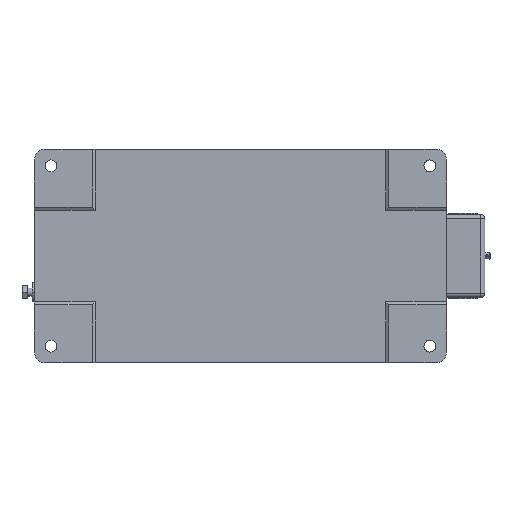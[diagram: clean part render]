
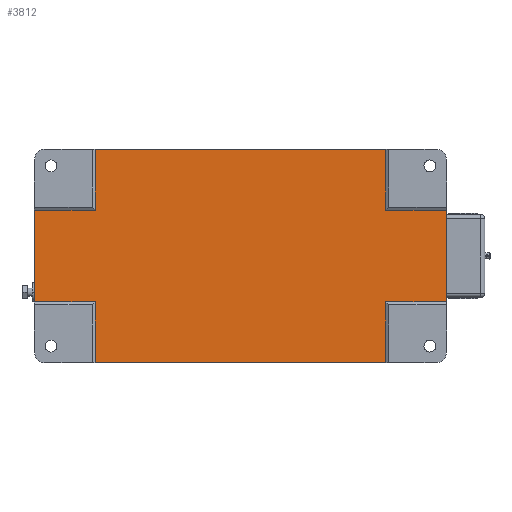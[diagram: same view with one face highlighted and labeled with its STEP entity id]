
A CAD part, front view. The second image highlights one B-rep face of the part: STEP entity #3812.
In plain terms, the highlighted planar face has unit normal (0, -1, 0).
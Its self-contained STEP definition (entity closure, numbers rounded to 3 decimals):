
#265 = CARTESIAN_POINT ( 'NONE',  ( 150., 2., 44.144 ) ) ;
#418 = VECTOR ( 'NONE', #7717, 1000. ) ;
#511 = DIRECTION ( 'NONE',  ( -1., 0., 0. ) ) ;
#538 = LINE ( 'NONE', #7071, #13415 ) ;
#794 = VECTOR ( 'NONE', #5416, 1000. ) ;
#935 = VERTEX_POINT ( 'NONE', #2004 ) ;
#1077 = CARTESIAN_POINT ( 'NONE',  ( -248., 2., 44.144 ) ) ;
#1304 = EDGE_CURVE ( 'NONE', #7363, #2558, #12093, .T. ) ;
#1396 = ORIENTED_EDGE ( 'NONE', *, *, #13284, .F. ) ;
#1512 = ORIENTED_EDGE ( 'NONE', *, *, #1753, .T. ) ;
#1616 = CARTESIAN_POINT ( 'NONE',  ( -189.144, 2., -103. ) ) ;
#1622 = CARTESIAN_POINT ( 'NONE',  ( -248., 2., -44.144 ) ) ;
#1637 = VECTOR ( 'NONE', #6834, 1000. ) ;
#1672 = ORIENTED_EDGE ( 'NONE', *, *, #11201, .F. ) ;
#1753 = EDGE_CURVE ( 'NONE', #4598, #8154, #3810, .T. ) ;
#1765 = LINE ( 'NONE', #2901, #6743 ) ;
#1869 = VECTOR ( 'NONE', #13486, 1000. ) ;
#1978 = EDGE_CURVE ( 'NONE', #10796, #11551, #8562, .T. ) ;
#1993 = CARTESIAN_POINT ( 'NONE',  ( 91.144, 2., 103. ) ) ;
#2004 = CARTESIAN_POINT ( 'NONE',  ( 150., 2., 44.144 ) ) ;
#2281 = CARTESIAN_POINT ( 'NONE',  ( 91.144, 2., -103. ) ) ;
#2365 = EDGE_CURVE ( 'NONE', #8154, #935, #12045, .T. ) ;
#2481 = VERTEX_POINT ( 'NONE', #12335 ) ;
#2492 = AXIS2_PLACEMENT_3D ( 'NONE', #13497, #3818, #5193 ) ;
#2558 = VERTEX_POINT ( 'NONE', #1993 ) ;
#2574 = ORIENTED_EDGE ( 'NONE', *, *, #4989, .T. ) ;
#2624 = PLANE ( 'NONE',  #2492 ) ;
#2687 = CARTESIAN_POINT ( 'NONE',  ( 91.144, 2., -103. ) ) ;
#2901 = CARTESIAN_POINT ( 'NONE',  ( 91.144, 2., 103. ) ) ;
#3379 = ORIENTED_EDGE ( 'NONE', *, *, #4449, .F. ) ;
#3411 = LINE ( 'NONE', #3625, #418 ) ;
#3625 = CARTESIAN_POINT ( 'NONE',  ( -189.144, 2., -103. ) ) ;
#3687 = LINE ( 'NONE', #6912, #8026 ) ;
#3810 = LINE ( 'NONE', #1622, #1869 ) ;
#3812 = ADVANCED_FACE ( 'NONE', ( #5918 ), #2624, .F. ) ;
#3818 = DIRECTION ( 'NONE',  ( 0., 1., 0. ) ) ;
#4449 = EDGE_CURVE ( 'NONE', #10304, #2481, #3411, .T. ) ;
#4467 = ORIENTED_EDGE ( 'NONE', *, *, #1978, .F. ) ;
#4598 = VERTEX_POINT ( 'NONE', #5444 ) ;
#4642 = LINE ( 'NONE', #8914, #7064 ) ;
#4886 = VERTEX_POINT ( 'NONE', #7814 ) ;
#4989 = EDGE_CURVE ( 'NONE', #6634, #4598, #12905, .T. ) ;
#5193 = DIRECTION ( 'NONE',  ( -1., 0., 0. ) ) ;
#5194 = ORIENTED_EDGE ( 'NONE', *, *, #11914, .T. ) ;
#5416 = DIRECTION ( 'NONE',  ( 0., 0., 1. ) ) ;
#5444 = CARTESIAN_POINT ( 'NONE',  ( 91.144, 2., -44.144 ) ) ;
#5611 = DIRECTION ( 'NONE',  ( 1., 0., 0. ) ) ;
#5905 = ORIENTED_EDGE ( 'NONE', *, *, #2365, .T. ) ;
#5918 = FACE_OUTER_BOUND ( 'NONE', #12844, .T. ) ;
#5983 = LINE ( 'NONE', #2687, #1637 ) ;
#6452 = CARTESIAN_POINT ( 'NONE',  ( 91.144, 2., -103. ) ) ;
#6634 = VERTEX_POINT ( 'NONE', #13439 ) ;
#6743 = VECTOR ( 'NONE', #511, 1000. ) ;
#6834 = DIRECTION ( 'NONE',  ( -1., 0., 0. ) ) ;
#6912 = CARTESIAN_POINT ( 'NONE',  ( -189.144, 2., -103. ) ) ;
#6932 = DIRECTION ( 'NONE',  ( 1., 0., 0. ) ) ;
#6953 = CARTESIAN_POINT ( 'NONE',  ( 150., 2., -44.144 ) ) ;
#6972 = VECTOR ( 'NONE', #12115, 1000. ) ;
#7064 = VECTOR ( 'NONE', #5611, 1000. ) ;
#7071 = CARTESIAN_POINT ( 'NONE',  ( -248., 2., -44.144 ) ) ;
#7363 = VERTEX_POINT ( 'NONE', #12957 ) ;
#7671 = ORIENTED_EDGE ( 'NONE', *, *, #7774, .T. ) ;
#7677 = CARTESIAN_POINT ( 'NONE',  ( -248., 2., 44.144 ) ) ;
#7717 = DIRECTION ( 'NONE',  ( 0., 0., 1. ) ) ;
#7774 = EDGE_CURVE ( 'NONE', #2558, #4886, #1765, .T. ) ;
#7814 = CARTESIAN_POINT ( 'NONE',  ( -189.144, 2., 103. ) ) ;
#7914 = EDGE_CURVE ( 'NONE', #7363, #935, #10686, .T. ) ;
#8026 = VECTOR ( 'NONE', #11179, 1000. ) ;
#8154 = VERTEX_POINT ( 'NONE', #6953 ) ;
#8562 = LINE ( 'NONE', #7677, #794 ) ;
#8741 = DIRECTION ( 'NONE',  ( 0., 0., 1. ) ) ;
#8756 = ORIENTED_EDGE ( 'NONE', *, *, #1304, .T. ) ;
#8914 = CARTESIAN_POINT ( 'NONE',  ( -248., 2., 44.144 ) ) ;
#9180 = VECTOR ( 'NONE', #10453, 1000. ) ;
#9896 = VECTOR ( 'NONE', #12855, 1000. ) ;
#10209 = VERTEX_POINT ( 'NONE', #13143 ) ;
#10304 = VERTEX_POINT ( 'NONE', #1616 ) ;
#10452 = CARTESIAN_POINT ( 'NONE',  ( -248., 2., 44.144 ) ) ;
#10453 = DIRECTION ( 'NONE',  ( 0., 0., 1. ) ) ;
#10459 = VECTOR ( 'NONE', #8741, 1000. ) ;
#10538 = EDGE_CURVE ( 'NONE', #11551, #10209, #4642, .T. ) ;
#10686 = LINE ( 'NONE', #1077, #9896 ) ;
#10796 = VERTEX_POINT ( 'NONE', #11670 ) ;
#10886 = ORIENTED_EDGE ( 'NONE', *, *, #7914, .F. ) ;
#11179 = DIRECTION ( 'NONE',  ( 0., 0., 1. ) ) ;
#11201 = EDGE_CURVE ( 'NONE', #10209, #4886, #3687, .T. ) ;
#11551 = VERTEX_POINT ( 'NONE', #10452 ) ;
#11670 = CARTESIAN_POINT ( 'NONE',  ( -248., 2., -44.144 ) ) ;
#11914 = EDGE_CURVE ( 'NONE', #10796, #2481, #538, .T. ) ;
#12045 = LINE ( 'NONE', #265, #6972 ) ;
#12093 = LINE ( 'NONE', #2281, #10459 ) ;
#12115 = DIRECTION ( 'NONE',  ( 0., 0., 1. ) ) ;
#12335 = CARTESIAN_POINT ( 'NONE',  ( -189.144, 2., -44.144 ) ) ;
#12752 = ORIENTED_EDGE ( 'NONE', *, *, #10538, .F. ) ;
#12844 = EDGE_LOOP ( 'NONE', ( #10886, #8756, #7671, #1672, #12752, #4467, #5194, #3379, #1396, #2574, #1512, #5905 ) ) ;
#12855 = DIRECTION ( 'NONE',  ( 1., 0., 0. ) ) ;
#12905 = LINE ( 'NONE', #6452, #9180 ) ;
#12957 = CARTESIAN_POINT ( 'NONE',  ( 91.144, 2., 44.144 ) ) ;
#13143 = CARTESIAN_POINT ( 'NONE',  ( -189.144, 2., 44.144 ) ) ;
#13284 = EDGE_CURVE ( 'NONE', #6634, #10304, #5983, .T. ) ;
#13415 = VECTOR ( 'NONE', #6932, 1000. ) ;
#13439 = CARTESIAN_POINT ( 'NONE',  ( 91.144, 2., -103. ) ) ;
#13486 = DIRECTION ( 'NONE',  ( 1., 0., 0. ) ) ;
#13497 = CARTESIAN_POINT ( 'NONE',  ( -248., 2., 44.144 ) ) ;
